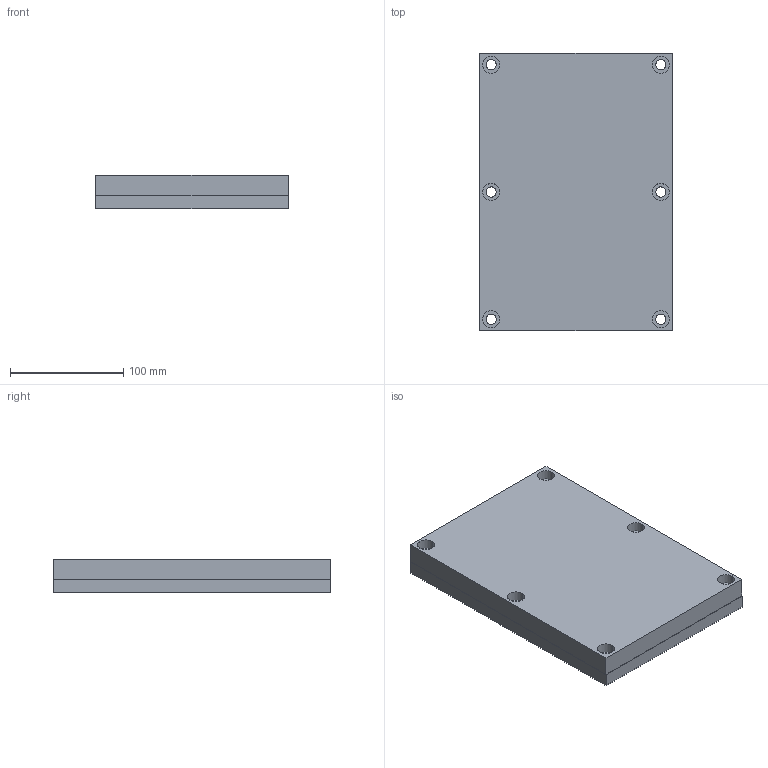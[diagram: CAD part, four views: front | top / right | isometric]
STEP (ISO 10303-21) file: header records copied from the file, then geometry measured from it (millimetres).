
FILE_DESCRIPTION (( 'STEP AP214' ), '1' );
FILE_NAME ('CPE-245x245x170.STEP', '2020-11-11T09:44:06', ( '' ), ( '' ), 'SwSTEP 2.0', 'SolidWorks 2018', '' );
FILE_SCHEMA (( 'AUTOMOTIVE_DESIGN' ));
Length unit declared in the file: millimetre
Products named in the file (1): CPE-245x245x170
Bounding box: 170 x 245 x 30 mm (x, y, z)
Volume: 1231941.6 mm3; surface area: 196080.4 mm2
Topology: 2 solids, 2 shells, 54 faces, 132 edges, 88 vertices
Faces by surface type: cylinder 36, plane 18
Entity records: 1719 total; most frequent: DIRECTION 314, CARTESIAN_POINT 275, ORIENTED_EDGE 264, EDGE_CURVE 132, AXIS2_PLACEMENT_3D 127, VERTEX_POINT 88, EDGE_LOOP 84, CIRCLE 72
